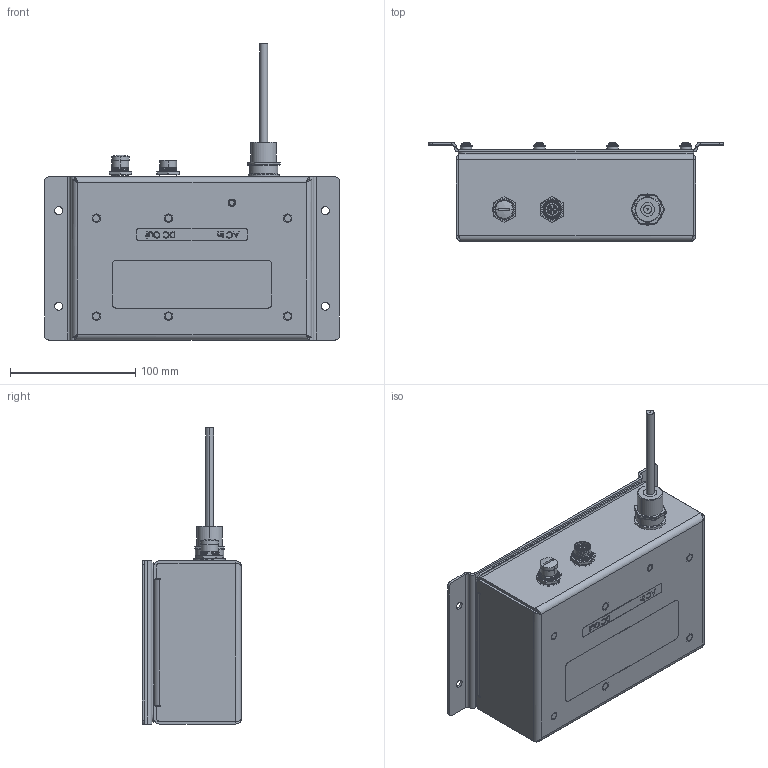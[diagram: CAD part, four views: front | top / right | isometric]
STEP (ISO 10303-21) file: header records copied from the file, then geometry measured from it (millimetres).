
FILE_DESCRIPTION (( 'STEP AP203' ), '1' );
FILE_NAME ('180837.STEP', '2019-05-15T21:50:24', ( '' ), ( '' ), 'SwSTEP 2.0', 'SolidWorks 2017', '' );
FILE_SCHEMA (( 'CONFIG_CONTROL_DESIGN' ));
Products named in the file (2): 180837
Bounding box: 234.95 x 79.42 x 236.14 mm (x, y, z)
Surface area: 228155.5 mm2 (no closed solid volume)
Topology: 0 solids, 92 shells, 793 faces, 3040 edges, 2277 vertices
Faces by surface type: plane 338, cylinder 227, bspline 87, cone 65, torus 54, sphere 22
Entity records: 45150 total; most frequent: CARTESIAN_POINT 20198, DIRECTION 5208, ORIENTED_EDGE 4508, EDGE_CURVE 3040, VERTEX_POINT 2277, AXIS2_PLACEMENT_3D 2011, CIRCLE 1303, VECTOR 1186
